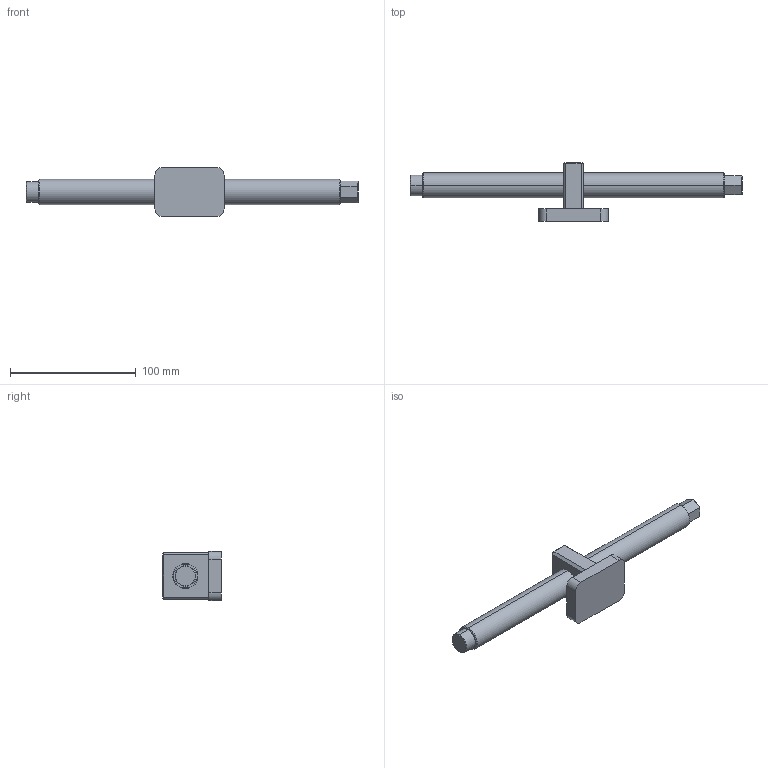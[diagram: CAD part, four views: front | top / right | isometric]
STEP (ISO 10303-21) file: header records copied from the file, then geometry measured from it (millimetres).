
FILE_DESCRIPTION (( 'STEP AP214' ), '1' );
FILE_NAME ('4825264.STEP', '2025-03-20T12:09:38', ( '' ), ( '' ), 'SwSTEP 2.0', 'SolidWorks 2021', '' );
FILE_SCHEMA (( 'AUTOMOTIVE_DESIGN' ));
Length unit declared in the file: millimetre
Products named in the file (1): 4825264
Bounding box: 264 x 46.85 x 39 mm (x, y, z)
Volume: 118104.8 mm3; surface area: 25239.8 mm2
Topology: 1 solids, 1 shells, 68 faces, 154 edges, 94 vertices
Faces by surface type: plane 52, cylinder 10, cone 6
Entity records: 2341 total; most frequent: DIRECTION 318, CARTESIAN_POINT 317, ORIENTED_EDGE 308, EDGE_CURVE 154, LINE 128, VECTOR 128, AXIS2_PLACEMENT_3D 95, VERTEX_POINT 94
